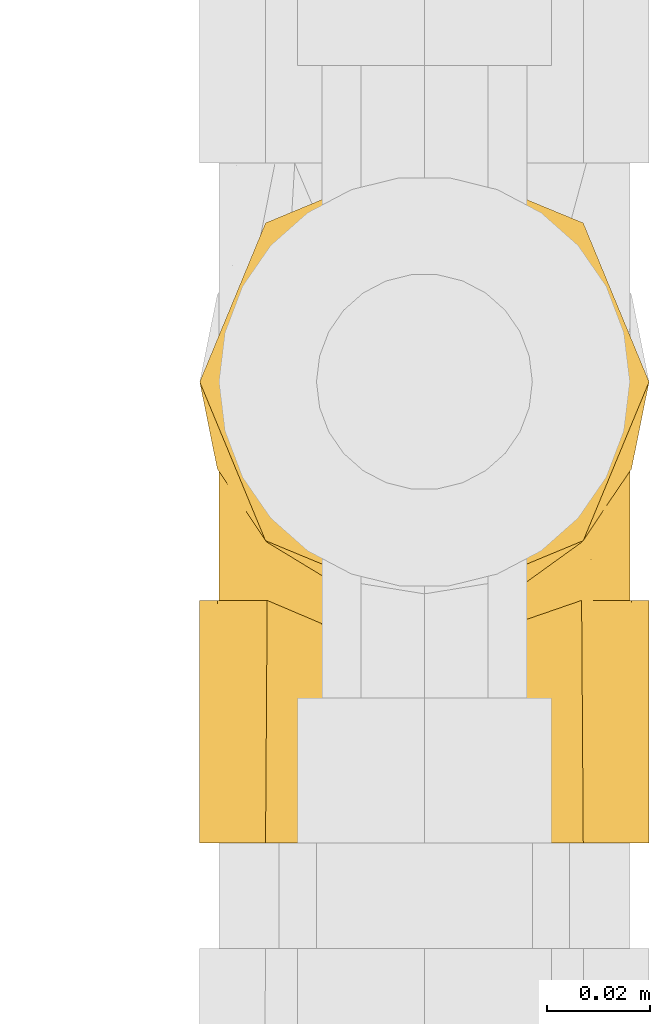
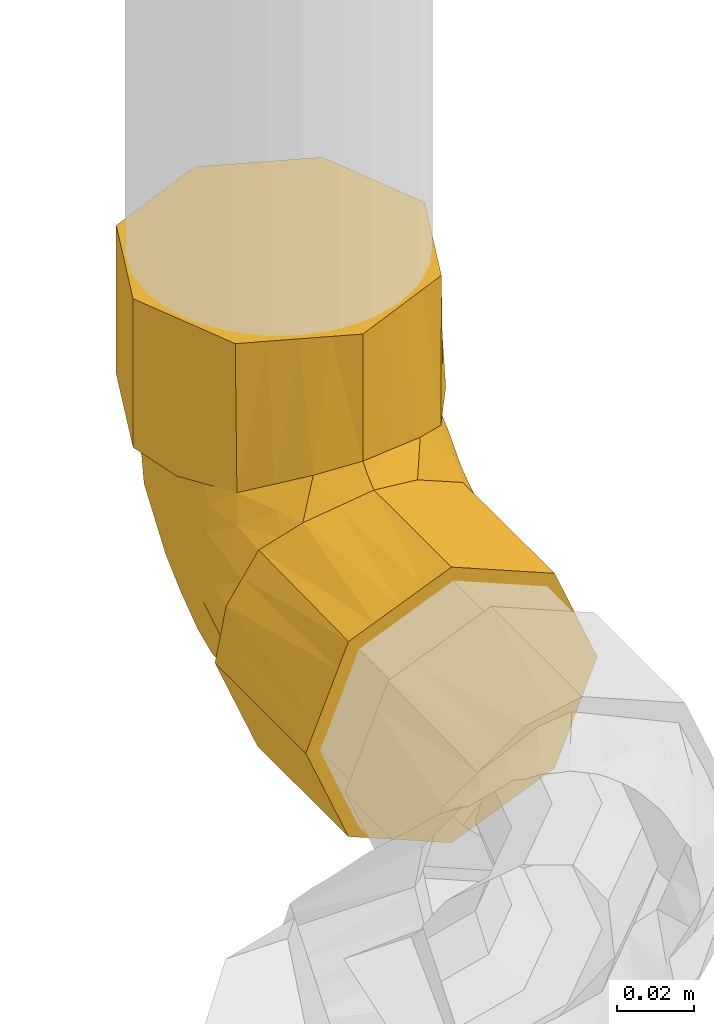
# One storey, part 274 of 652: 1 covering.
"""IFC2X3 building model written with IfcOpenShell, lengths in millimetres."""

from ifc_helpers import new_model, entity, si_unit, converted_unit, direction, frame, origin, place, context, subcontext, project, spatial, faceted_brep, material, type_object, element, save


model = new_model("IFC2X3")

# Units and contexts
model_context = context("Model", 3, precision=0.01, world=frame((0.0, 0.0, 308426.39999999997)), true_north=direction((6.123233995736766e-17, 1.0)))
plan_context = context("Plan", 3, precision=0.01, world=frame((0.0, 0.0, 308426.39999999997)), true_north=direction((6.123233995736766e-17, 1.0)))
body_context = subcontext(model_context, "Body", "Model", "MODEL_VIEW")
ifc_project = project(units=[si_unit("LENGTHUNIT", "METRE", prefix="MILLI"), si_unit("AREAUNIT", "SQUARE_METRE"), si_unit("VOLUMEUNIT", "CUBIC_METRE"), converted_unit("PLANEANGLEUNIT", "DEGREE", entity("IfcPlaneAngleMeasure", 0.017453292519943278), si_unit("PLANEANGLEUNIT", "RADIAN"), dimensions=[0, 0, 0, 0, 0, 0, 0])], contexts=[model_context, plan_context])

# Site, building, storey
site_placement = place(None, origin())
site = spatial("IfcSite", under=ifc_project, at=site_placement, Name="Default", CompositionType="ELEMENT")
building_placement = place(site_placement, origin())
building = spatial("IfcBuilding", under=site, at=building_placement, CompositionType="ELEMENT")
storey_placement = place(building_placement, frame((0.0, 0.0, 1730.6999999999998)))
storey = spatial("IfcBuildingStorey", under=building, at=storey_placement, Name="EG_Produktion_FFB", CompositionType="ELEMENT", Elevation=1730.6999999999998)

# Covering
ifc_material = material(Name="Dämmung - Armaflex-Schlauch")
covering_type = type_object("IfcCoveringType", Name="Rohrdämmung außen:Armaflex-Schlauch", PredefinedType="INSULATION")
covering_placement = place(storey_placement, frame((79576.77747546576, 78689.01010396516, 3554.6847277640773)))
element("IfcCovering", 1, at=covering_placement, inside=storey, type_object=covering_type, material=ifc_material, Name="Rohrdämmung außen:Armaflex-Schlauch", ObjectType="Rohrdämmung außen:Armaflex-Schlauch", PredefinedType="INSULATION", context=body_context, shape_type="Brep", body=[
    faceted_brep([(89.03527223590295, 89.72000000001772, 87.85527223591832), (87.32560271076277, 81.24510874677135, 87.85527223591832), (85.61593318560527, 72.77021749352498, 87.85527223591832), (80.76173107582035, 65.62819301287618, 87.85527223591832), (75.90752896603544, 58.48616853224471, 87.85527223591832), (80.04887855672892, 67.59976223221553, 87.85527223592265), (84.19022814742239, 76.71335593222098, 87.85527223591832), (85.31527223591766, 86.71350835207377, 87.85527223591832), (81.77473258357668, 94.40209709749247, 87.8552722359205), (78.23419293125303, 102.09068584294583, 87.8552722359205), (74.38937834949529, 110.44003397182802, 87.85527223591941), (70.54456376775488, 118.78938210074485, 87.85527223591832), (57.929918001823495, 123.35795944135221, 87.85527223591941), (45.315272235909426, 127.92653678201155, 87.85527223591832), (37.43572750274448, 124.00203477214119, 87.85527223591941), (29.556182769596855, 120.07753276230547, 87.85527223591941), (21.67663803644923, 116.15303075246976, 87.85527223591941), (13.797093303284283, 112.22852874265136, 87.85527223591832), (10.721731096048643, 102.9772218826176, 87.85527223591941), (8.018501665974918, 94.84536511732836, 87.8552722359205), (5.315272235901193, 86.71350835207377, 87.85527223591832), (6.153990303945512, 82.95558245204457, 87.8552722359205), (6.992708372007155, 79.19765655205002, 87.8552722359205), (8.33413587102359, 73.18731131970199, 87.85527223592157), (9.675563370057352, 67.17696608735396, 87.85527223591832), (14.723015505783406, 58.48616853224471, 87.85527223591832), (9.868813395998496, 65.62819301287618, 87.85527223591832), (5.014611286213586, 72.77021749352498, 87.85527223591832), (3.3049417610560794, 81.24510874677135, 87.85527223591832), (1.5952722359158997, 89.72000000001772, 87.85527223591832), (5.076533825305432, 98.12450894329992, 87.85527223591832), (7.997917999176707, 105.17735423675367, 87.85527223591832), (11.19924088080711, 112.90603135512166, 87.85527223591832), (14.400563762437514, 120.63470847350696, 87.85527223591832), (22.129240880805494, 123.83603135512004, 87.85527223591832), (29.85791799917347, 127.03735423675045, 87.85527223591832), (36.91076458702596, 129.9587389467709, 87.85527223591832), (45.315272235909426, 133.44000000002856, 87.85527223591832), (53.71978107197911, 129.95873845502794, 87.85527223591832), (60.772626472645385, 127.03735423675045, 87.85527223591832), (68.50130359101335, 123.83603135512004, 87.85527223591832), (76.22998070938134, 120.63470847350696, 87.85527223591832), (79.43130359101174, 112.90603135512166, 87.85527223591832), (82.63262647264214, 105.17735423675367, 87.85527223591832), (85.55401122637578, 98.12450754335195, 87.85527223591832), (14.400563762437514, 58.80529152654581, 135.0352722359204), (22.129240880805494, 55.603968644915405, 135.0352722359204), (29.85791799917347, 52.402645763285, 135.0352722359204), (37.58659511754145, 49.2013228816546, 135.0352722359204), (45.315272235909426, 46.0, 135.0352722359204), (53.719779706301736, 49.481260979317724, 135.0352722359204), (60.772626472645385, 52.402645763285, 135.0352722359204), (68.50130359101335, 55.603968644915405, 135.0352722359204), (76.22998070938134, 58.80529152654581, 135.0352722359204), (79.43130359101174, 66.53396864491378, 135.0352722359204), (82.63262647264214, 74.26264576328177, 135.0352722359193), (85.83394935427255, 81.99132288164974, 135.0352722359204), (89.03527223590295, 89.72000000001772, 135.0352722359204), (85.83394935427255, 97.4486771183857, 135.0352722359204), (82.63262647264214, 105.17735423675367, 135.0352722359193), (79.43130359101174, 112.90603135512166, 135.0352722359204), (76.22998070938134, 120.63470847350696, 135.0352722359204), (68.50130359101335, 123.83603135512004, 135.0352722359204), (60.772626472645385, 127.03735423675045, 135.0352722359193), (53.0439493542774, 130.23867711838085, 135.0352722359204), (45.315272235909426, 133.44000000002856, 135.0352722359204), (37.58659511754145, 130.23867711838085, 135.0352722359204), (29.85791799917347, 127.03735423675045, 135.0352722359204), (22.129240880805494, 123.83603135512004, 135.0352722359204), (14.400563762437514, 120.63470847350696, 135.0352722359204), (11.479179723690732, 113.58186350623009, 135.0352722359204), (8.557795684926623, 106.52901853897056, 135.0352722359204), (5.076533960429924, 98.12450926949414, 135.0352722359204), (1.5952722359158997, 89.72000000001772, 135.0352722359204), (5.076533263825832, 81.31549241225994, 135.0352722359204), (7.997917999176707, 74.26264576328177, 135.0352722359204), (11.19924088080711, 66.53396864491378, 135.0352722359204), (45.315272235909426, 46.0, 94.75489207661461), (31.66279583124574, 48.18629937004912, 93.70357391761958), (23.19290566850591, 53.336233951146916, 90.77942307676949), (55.29456727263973, 48.410751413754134, 93.56571370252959), (65.27386230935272, 50.8215028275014, 92.37653532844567), (70.59069563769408, 54.65383567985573, 90.11590378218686), (89.03527223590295, 47.180000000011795, 45.31527223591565), (85.554010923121, 47.180000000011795, 36.91076396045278), (82.63262647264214, 47.180000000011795, 29.857917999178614), (79.43130359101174, 47.180000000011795, 22.12924088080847), (76.22998070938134, 47.180000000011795, 14.40056376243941), (68.50130359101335, 47.180000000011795, 11.199240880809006), (60.772626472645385, 47.180000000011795, 7.9979179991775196), (53.71977974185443, 47.180000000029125, 5.076533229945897), (45.315272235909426, 47.180000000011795, 1.595272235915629), (36.910763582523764, 47.180000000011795, 5.076533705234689), (29.85791799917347, 47.180000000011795, 7.9979179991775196), (22.129240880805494, 47.180000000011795, 11.199240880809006), (14.400563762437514, 47.180000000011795, 14.40056376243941), (11.19924088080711, 47.180000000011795, 22.12924088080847), (7.997917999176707, 47.17999999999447, 29.857917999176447), (5.076533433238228, 47.180000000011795, 36.91076423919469), (1.5952722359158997, 47.180000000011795, 45.31527223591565), (3.3049417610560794, 47.180000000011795, 53.79016348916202), (5.014611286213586, 47.180000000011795, 62.26505474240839), (9.868813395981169, 47.180000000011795, 69.40707922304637), (14.72301550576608, 47.180000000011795, 76.54910370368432), (10.581665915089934, 47.180000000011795, 67.43551000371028), (6.440316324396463, 47.180000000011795, 58.32191630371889), (5.315272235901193, 47.180000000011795, 48.32176388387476), (8.857127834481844, 47.180000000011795, 40.63399912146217), (12.398983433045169, 47.180000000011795, 32.94623435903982), (16.24820944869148, 47.180000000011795, 24.591307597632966), (20.097435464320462, 47.180000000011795, 16.236380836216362), (32.706353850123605, 47.180000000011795, 11.672558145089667), (45.315272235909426, 47.180000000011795, 7.108735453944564), (52.966063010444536, 47.180000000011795, 10.921225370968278), (60.61685378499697, 47.180000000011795, 14.733715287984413), (68.73001363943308, 47.180000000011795, 18.77660981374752), (76.8431734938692, 47.180000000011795, 22.819504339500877), (79.91186200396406, 47.180000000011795, 32.05670674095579), (82.61356711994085, 47.180000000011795, 40.189235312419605), (85.31527223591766, 47.180000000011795, 48.321763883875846), (84.47655407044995, 47.180000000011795, 52.079690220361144), (83.63783590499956, 47.180000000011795, 55.83761655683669), (82.29640850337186, 47.180000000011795, 61.847961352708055), (80.9549811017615, 47.180000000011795, 67.85830614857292), (75.90752896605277, 47.180000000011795, 76.54910370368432), (80.76173107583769, 47.180000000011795, 69.40707922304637), (85.61593318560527, 47.180000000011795, 62.26505474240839), (87.32560271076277, 47.180000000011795, 53.79016348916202), (4.796595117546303, 0.0, 37.586595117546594), (7.997917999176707, 0.0, 29.85791799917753), (11.19924088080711, 0.0, 22.12924088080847), (14.400563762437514, 0.0, 14.40056376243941), (21.45340882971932, 0.0, 11.47917968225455), (28.506253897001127, 0.0, 8.557795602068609), (36.910763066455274, 0.0, 5.07653391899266), (45.315272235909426, 0.0, 1.595272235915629), (53.0439493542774, 0.0, 4.796595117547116), (60.772626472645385, 0.0, 7.9979179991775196), (68.50130359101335, 0.0, 11.199240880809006), (76.22998070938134, 0.0, 14.40056376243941), (79.15136521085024, 0.0, 21.453409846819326), (82.07274971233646, 0.0, 28.50625593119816), (85.55401097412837, 0.0, 36.910764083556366), (89.03527223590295, 0.0, 45.31527223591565), (85.55401125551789, 0.0, 53.719779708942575), (82.63262647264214, 0.0, 60.77262647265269), (79.43130359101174, 0.0, 68.50130359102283), (76.22998070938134, 0.0, 76.2299807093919), (68.50130359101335, 0.0, 79.43130359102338), (60.772626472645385, 0.0, 82.63262647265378), (53.0439493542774, 0.0, 85.83394935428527), (45.315272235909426, 0.0, 89.03527223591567), (36.910764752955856, 0.0, 85.5540112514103), (29.85791799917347, 0.0, 82.63262647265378), (22.129240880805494, 0.0, 79.43130359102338), (14.400563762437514, 0.0, 76.2299807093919), (11.19924088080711, 0.0, 68.50130359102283), (7.997917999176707, 0.0, 60.772626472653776), (5.076533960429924, 0.0, 53.71978150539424), (1.5952722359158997, 0.0, 45.31527223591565), (35.33597719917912, 41.46955853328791, 86.62452082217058), (45.315272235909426, 40.28038015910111, 89.03527223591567), (25.356682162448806, 42.65873690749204, 84.21376940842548), (20.039848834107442, 44.91936845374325, 80.38143655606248), (58.96774864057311, 41.33169831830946, 86.84897286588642), (67.43763880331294, 44.25584915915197, 81.69903828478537), (12.76890229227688, 102.49999649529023, 66.03239986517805), (7.787208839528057, 83.60958898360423, 55.76473064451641), (8.104834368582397, 95.30424408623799, 70.755329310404), (6.007401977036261, 71.60897612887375, 53.302769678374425), (5.315272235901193, 59.43767565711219, 55.83084240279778), (5.315272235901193, 61.22785128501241, 56.92750784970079), (5.315272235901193, 66.4616012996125, 60.13371438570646), (5.315272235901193, 71.69535131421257, 63.33992092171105), (5.864571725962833, 83.67430089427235, 67.30415642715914), (24.58661320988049, 117.40903969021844, 72.12434878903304), (18.414775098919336, 111.86429064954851, 70.7434334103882), (18.927192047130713, 70.85063664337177, 25.799879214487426), (12.404066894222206, 67.53335117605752, 32.33355166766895), (27.82514869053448, 83.80384600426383, 26.762337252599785), (25.732183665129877, 64.53321341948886, 17.55268922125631), (14.910850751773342, 90.43623469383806, 45.325045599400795), (17.612323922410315, 102.66695114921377, 55.64249574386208), (22.31063464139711, 94.87809969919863, 40.2455628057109), (10.645810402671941, 80.53930526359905, 44.41146460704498), (45.315272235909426, 118.67320029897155, 72.64450076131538), (35.04382849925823, 119.32128053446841, 65.22532417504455), (35.877342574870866, 89.05681868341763, 27.003493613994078), (35.341643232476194, 72.18436270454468, 16.749672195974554), (7.978346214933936, 66.98253595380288, 41.63394405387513), (23.67628326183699, 109.32574663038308, 57.10694535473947), (35.143945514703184, 103.32706994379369, 40.53780036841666), (28.006441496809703, 103.30544999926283, 44.548407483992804), (45.315272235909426, 90.91319084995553, 27.01218633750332), (45.315272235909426, 65.21083649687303, 15.314765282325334), (45.315272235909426, 109.41986381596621, 57.43372928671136), (45.315272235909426, 100.16652733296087, 42.222957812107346), (5.315272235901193, 54.203925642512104, 52.62463586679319), (5.315272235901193, 74.90155815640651, 68.57367143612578), (5.315272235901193, 78.10776499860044, 73.80742195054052), (5.315272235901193, 82.41063667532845, 80.8313470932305), (5.315272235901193, 84.56207251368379, 84.3433096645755), (6.515026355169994, 56.25886182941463, 63.30579836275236), (6.52360473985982, 62.037918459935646, 67.67516595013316), (6.838807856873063, 70.10566319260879, 78.5151450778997), (5.95142486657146, 68.23490048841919, 69.9943931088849), (8.011933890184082, 62.99433546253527, 75.1291978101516), (9.284155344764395, 54.79248262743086, 71.60390920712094), (45.315272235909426, 43.41108006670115, 91.62419216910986), (21.350681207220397, 48.835072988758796, 85.77416460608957), (12.878665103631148, 55.14442201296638, 79.89085011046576), (9.509001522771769, 64.13683945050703, 82.0024111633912), (82.61861054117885, 59.90607457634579, 72.04093705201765), (81.34638912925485, 63.431363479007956, 80.24279019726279), (77.75188031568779, 55.144422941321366, 79.89084918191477), (85.31527223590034, 78.10776499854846, 73.80742195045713), (85.31527223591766, 79.20442983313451, 75.59759657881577), (85.31527223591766, 82.41063667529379, 80.83134709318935), (69.27986274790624, 49.261107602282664, 86.200199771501), (81.1215425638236, 53.03286108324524, 70.89843373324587), (83.79173653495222, 56.520126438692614, 64.92960889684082), (84.10693976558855, 67.36010606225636, 72.99735331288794), (84.67911968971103, 65.04087848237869, 66.80037051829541), (85.31527223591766, 71.69535131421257, 63.33992092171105), (84.11551813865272, 71.7294735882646, 78.77640980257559), (85.31527223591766, 74.90155815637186, 68.57367143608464), (85.31527223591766, 50.69196282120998, 50.473199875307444), (85.31527223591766, 54.20392564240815, 52.62463586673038), (85.31527223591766, 61.2278512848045, 56.92750784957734), (85.31527223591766, 66.46160129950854, 60.13371438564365), (71.91409724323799, 64.51661720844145, 22.9725425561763), (65.71218477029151, 62.891723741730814, 17.40545564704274), (66.83340013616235, 77.88843229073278, 25.59429383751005), (58.71549396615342, 93.66203085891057, 32.30040737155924), (67.03603928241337, 94.88135093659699, 39.028871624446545), (54.35919340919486, 119.67254054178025, 65.25953143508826), (56.778590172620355, 72.87900692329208, 17.55543330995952), (84.62352215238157, 81.73107619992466, 63.427735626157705), (82.65281657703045, 93.40104666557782, 68.05540963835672), (82.84467155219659, 79.26910431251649, 51.42928442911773), (79.98754021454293, 90.61961422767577, 54.498556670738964), (82.52556187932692, 64.28083963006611, 39.73108369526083), (84.76623113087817, 67.73559194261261, 51.366056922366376), (75.72471529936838, 89.70612046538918, 44.603239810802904), (77.86587628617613, 69.00398843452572, 32.54265152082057), (72.96044433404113, 79.38016234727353, 32.29248434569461), (71.96834918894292, 108.77974526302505, 63.82623404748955), (78.28376597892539, 102.96803980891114, 68.19116674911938), (62.671083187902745, 108.54428370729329, 51.50952341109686), (63.12603991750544, 118.44866051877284, 70.38974905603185), (53.60445762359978, 107.59283931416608, 44.981281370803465)], [[[0, 1, 2, 3, 4, 5, 6, 7, 8, 9, 10, 11, 12, 13, 14, 15, 16, 17, 18, 19, 20, 21, 22, 23, 24, 25, 26, 27, 28, 29, 30, 31, 32, 33, 34, 35, 36, 37, 38, 39, 40, 41, 42, 43, 44]], [[45, 46, 47, 48, 49, 50, 51, 52, 53, 54, 55, 56, 57, 58, 59, 60, 61, 62, 63, 64, 65, 66, 67, 68, 69, 70, 71, 72, 73, 74, 75, 76]], [[74, 27, 76, 75]], [[77, 48, 78]], [[78, 47, 79]], [[48, 77, 49]], [[25, 79, 46]], [[27, 74, 28]], [[45, 26, 25]], [[48, 47, 78]], [[73, 28, 74]], [[73, 29, 28]], [[76, 27, 26]], [[26, 45, 76]], [[25, 46, 45]], [[79, 47, 46]], [[30, 29, 73, 72, 71, 70, 69, 33, 32, 31]], [[33, 69, 68, 67, 66, 65, 37, 36, 35, 34]], [[0, 44, 43, 42, 41, 61, 60, 59, 58, 57]], [[63, 62, 61, 41, 40, 39, 38, 37, 65, 64]], [[3, 54, 53]], [[57, 56, 0]], [[80, 51, 50]], [[55, 2, 1]], [[55, 54, 2]], [[52, 81, 82, 4]], [[50, 77, 80]], [[2, 54, 3]], [[1, 56, 55]], [[53, 4, 3]], [[51, 80, 81]], [[0, 56, 1]], [[50, 49, 77]], [[52, 4, 53]], [[52, 51, 81]], [[83, 84, 85, 86, 87, 88, 89, 90, 91, 92, 93, 94, 95, 96, 97, 98, 99, 100, 101, 102, 103, 104, 105, 106, 107, 108, 109, 110, 111, 112, 113, 114, 115, 116, 117, 118, 119, 120, 121, 122, 123, 124, 125, 126, 127]], [[128, 129, 130, 131, 132, 133, 134, 135, 136, 137, 138, 139, 140, 141, 142, 143, 144, 145, 146, 147, 148, 149, 150, 151, 152, 153, 154, 155, 156, 157, 158, 159]], [[133, 132, 131, 95, 94, 93, 92, 91, 135, 134]], [[95, 131, 130, 129, 128, 159, 99, 98, 97, 96]], [[102, 156, 155]], [[160, 153, 152]], [[99, 159, 100]], [[157, 156, 101, 158]], [[158, 101, 100]], [[152, 161, 160]], [[101, 156, 102]], [[154, 162, 163, 103]], [[155, 103, 102]], [[153, 160, 162]], [[159, 158, 100]], [[152, 151, 161]], [[154, 103, 155]], [[154, 153, 162]], [[125, 147, 146]], [[143, 83, 127]], [[161, 150, 164]], [[164, 149, 165]], [[150, 161, 151]], [[147, 125, 124]], [[126, 144, 127]], [[146, 145, 144, 126]], [[124, 148, 147]], [[143, 127, 144]], [[150, 149, 164]], [[146, 126, 125]], [[124, 165, 148]], [[165, 149, 148]], [[84, 83, 143, 142, 141, 140, 139, 87, 86, 85]], [[87, 139, 138, 137, 136, 135, 91, 90, 89, 88]], [[166, 167, 168]], [[169, 170, 171, 172, 173]], [[19, 168, 174]], [[17, 166, 18]], [[175, 176, 16]], [[177, 109, 178]], [[179, 180, 177]], [[181, 182, 183]], [[166, 181, 184]], [[14, 185, 186]], [[187, 188, 179]], [[184, 189, 167]], [[182, 181, 166]], [[176, 175, 190]], [[186, 191, 192]], [[166, 184, 167]], [[169, 174, 167]], [[188, 193, 194]], [[110, 109, 177]], [[190, 175, 186]], [[175, 16, 15]], [[186, 175, 15]], [[176, 190, 182]], [[186, 15, 14]], [[186, 195, 191]], [[196, 193, 187]], [[179, 183, 192]], [[184, 178, 189]], [[191, 195, 196]], [[178, 109, 108]], [[183, 177, 181]], [[178, 108, 189]], [[181, 177, 178]], [[189, 108, 107]], [[107, 106, 197, 170]], [[170, 169, 107]], [[169, 173, 174]], [[167, 189, 169]], [[107, 169, 189]], [[174, 173, 198, 199, 200, 201, 20]], [[174, 20, 19]], [[168, 19, 18]], [[166, 168, 18]], [[174, 168, 167]], [[111, 180, 188]], [[110, 177, 180]], [[194, 112, 111]], [[178, 184, 181]], [[188, 180, 179]], [[111, 110, 180]], [[179, 191, 187]], [[111, 188, 194]], [[187, 191, 196]], [[193, 188, 187]], [[192, 183, 190]], [[177, 183, 179]], [[166, 17, 176]], [[183, 182, 190]], [[166, 176, 182]], [[17, 16, 176]], [[185, 14, 13]], [[185, 195, 186]], [[186, 192, 190]], [[179, 192, 191]], [[172, 202, 203]], [[204, 205, 206]], [[23, 22, 21, 20, 201, 200, 199]], [[202, 104, 207]], [[208, 77, 78]], [[203, 173, 172]], [[203, 202, 207]], [[105, 104, 202]], [[163, 162, 209]], [[203, 205, 173]], [[197, 106, 105, 171, 170]], [[207, 206, 203]], [[210, 207, 103]], [[104, 103, 207]], [[160, 161, 208]], [[210, 163, 209]], [[206, 207, 210]], [[210, 25, 211]], [[204, 211, 24]], [[209, 25, 210]], [[78, 79, 25, 209]], [[105, 202, 171]], [[210, 103, 163]], [[78, 209, 162]], [[205, 203, 206]], [[172, 171, 202]], [[206, 211, 204]], [[204, 198, 205]], [[204, 24, 23]], [[210, 211, 206]], [[199, 204, 23]], [[198, 204, 199]], [[198, 173, 205]], [[25, 24, 211]], [[78, 160, 208]], [[78, 162, 160]], [[212, 213, 214]], [[6, 215, 216, 217, 7]], [[82, 218, 214]], [[219, 123, 220]], [[214, 213, 4]], [[5, 4, 213]], [[221, 222, 223]], [[208, 80, 77]], [[218, 124, 214]], [[161, 164, 208]], [[214, 124, 219]], [[6, 5, 224]], [[82, 81, 218]], [[224, 5, 213]], [[225, 224, 221]], [[220, 222, 212]], [[122, 121, 120, 119, 226, 227, 228]], [[164, 165, 124, 218]], [[221, 223, 225]], [[213, 212, 221]], [[221, 224, 213]], [[6, 224, 215]], [[214, 4, 82]], [[164, 218, 81]], [[222, 221, 212]], [[225, 215, 224]], [[212, 219, 220]], [[220, 229, 222]], [[220, 123, 122]], [[214, 219, 212]], [[228, 220, 122]], [[229, 220, 228]], [[229, 223, 222]], [[124, 123, 219]], [[164, 80, 208]], [[164, 81, 80]], [[230, 115, 231]], [[232, 233, 234]], [[12, 235, 13]], [[113, 194, 236]], [[237, 216, 215, 225, 223]], [[236, 232, 231]], [[238, 239, 240]], [[230, 231, 232]], [[118, 241, 242]], [[243, 244, 245]], [[246, 10, 247]], [[116, 244, 117]], [[244, 243, 240]], [[244, 239, 241]], [[248, 249, 246]], [[247, 238, 240]], [[237, 242, 239]], [[232, 236, 233]], [[250, 193, 196, 195]], [[113, 236, 114]], [[233, 248, 234]], [[113, 112, 194]], [[193, 236, 194]], [[236, 193, 233]], [[233, 250, 248]], [[231, 115, 114]], [[248, 250, 235]], [[248, 235, 249]], [[235, 250, 195]], [[235, 195, 185, 13]], [[235, 12, 249]], [[12, 11, 249]], [[246, 249, 11]], [[10, 9, 247]], [[234, 246, 243]], [[246, 234, 248]], [[245, 234, 243]], [[246, 11, 10]], [[247, 9, 238]], [[243, 246, 247]], [[238, 9, 8]], [[8, 7, 217, 216]], [[216, 237, 8]], [[237, 223, 242]], [[239, 238, 237]], [[8, 237, 238]], [[242, 223, 229, 228, 227, 226, 119]], [[242, 119, 118]], [[241, 118, 117]], [[244, 241, 117]], [[242, 241, 239]], [[244, 240, 239]], [[247, 240, 243]], [[193, 250, 233]], [[236, 231, 114]], [[230, 232, 245]], [[244, 116, 230]], [[234, 245, 232]], [[244, 230, 245]], [[116, 115, 230]]]),
])

save(model, "model.ifc")
